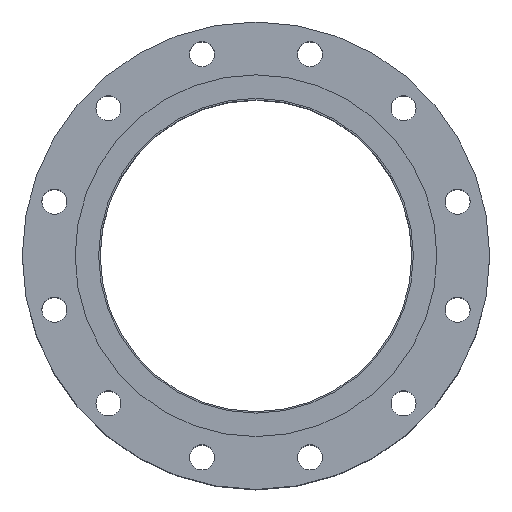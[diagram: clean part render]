
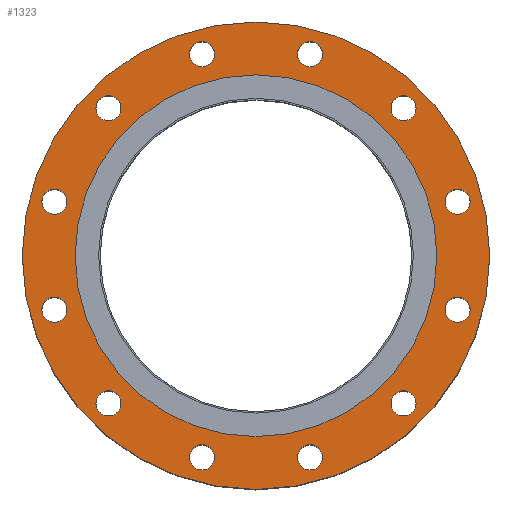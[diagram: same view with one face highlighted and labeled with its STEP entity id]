
A CAD part, top view. The second image highlights one B-rep face of the part: STEP entity #1323.
In plain terms, the highlighted planar face has unit normal (0, 0, 1).
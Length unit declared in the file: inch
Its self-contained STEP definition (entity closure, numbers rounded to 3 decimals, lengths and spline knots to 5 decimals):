
#88=FACE_BOUND('',#351,.T.);
#89=FACE_BOUND('',#352,.T.);
#90=FACE_BOUND('',#353,.T.);
#91=FACE_BOUND('',#354,.T.);
#92=FACE_BOUND('',#355,.T.);
#93=FACE_BOUND('',#356,.T.);
#94=FACE_BOUND('',#357,.T.);
#95=FACE_BOUND('',#358,.T.);
#96=FACE_BOUND('',#359,.T.);
#97=FACE_BOUND('',#360,.T.);
#98=FACE_BOUND('',#361,.T.);
#99=FACE_BOUND('',#362,.T.);
#100=FACE_BOUND('',#363,.T.);
#142=PLANE('',#1508);
#237=FACE_OUTER_BOUND('',#350,.T.);
#350=EDGE_LOOP('',(#1037));
#351=EDGE_LOOP('',(#1038));
#352=EDGE_LOOP('',(#1039));
#353=EDGE_LOOP('',(#1040));
#354=EDGE_LOOP('',(#1041));
#355=EDGE_LOOP('',(#1042));
#356=EDGE_LOOP('',(#1043));
#357=EDGE_LOOP('',(#1044));
#358=EDGE_LOOP('',(#1045));
#359=EDGE_LOOP('',(#1046));
#360=EDGE_LOOP('',(#1047));
#361=EDGE_LOOP('',(#1048));
#362=EDGE_LOOP('',(#1049));
#363=EDGE_LOOP('',(#1050));
#519=CIRCLE('',#1451,0.5625);
#521=CIRCLE('',#1454,0.5625);
#523=CIRCLE('',#1457,0.5625);
#525=CIRCLE('',#1460,0.5625);
#527=CIRCLE('',#1463,0.5625);
#529=CIRCLE('',#1466,0.5625);
#531=CIRCLE('',#1469,0.5625);
#533=CIRCLE('',#1472,0.5625);
#535=CIRCLE('',#1475,0.5625);
#537=CIRCLE('',#1478,0.5625);
#539=CIRCLE('',#1481,0.5625);
#541=CIRCLE('',#1484,0.5625);
#554=CIRCLE('',#1503,8.125);
#556=CIRCLE('',#1507,10.5);
#667=VERTEX_POINT('',#2266);
#669=VERTEX_POINT('',#2272);
#671=VERTEX_POINT('',#2278);
#673=VERTEX_POINT('',#2284);
#675=VERTEX_POINT('',#2290);
#677=VERTEX_POINT('',#2296);
#679=VERTEX_POINT('',#2302);
#681=VERTEX_POINT('',#2308);
#683=VERTEX_POINT('',#2314);
#685=VERTEX_POINT('',#2320);
#687=VERTEX_POINT('',#2326);
#689=VERTEX_POINT('',#2332);
#700=VERTEX_POINT('',#2364);
#702=VERTEX_POINT('',#2371);
#779=EDGE_CURVE('',#667,#667,#519,.T.);
#782=EDGE_CURVE('',#669,#669,#521,.T.);
#785=EDGE_CURVE('',#671,#671,#523,.T.);
#788=EDGE_CURVE('',#673,#673,#525,.T.);
#791=EDGE_CURVE('',#675,#675,#527,.T.);
#794=EDGE_CURVE('',#677,#677,#529,.T.);
#797=EDGE_CURVE('',#679,#679,#531,.T.);
#800=EDGE_CURVE('',#681,#681,#533,.T.);
#803=EDGE_CURVE('',#683,#683,#535,.T.);
#806=EDGE_CURVE('',#685,#685,#537,.T.);
#809=EDGE_CURVE('',#687,#687,#539,.T.);
#812=EDGE_CURVE('',#689,#689,#541,.T.);
#828=EDGE_CURVE('',#700,#700,#554,.T.);
#830=EDGE_CURVE('',#702,#702,#556,.T.);
#1037=ORIENTED_EDGE('',*,*,#830,.T.);
#1038=ORIENTED_EDGE('',*,*,#779,.T.);
#1039=ORIENTED_EDGE('',*,*,#782,.T.);
#1040=ORIENTED_EDGE('',*,*,#785,.T.);
#1041=ORIENTED_EDGE('',*,*,#788,.T.);
#1042=ORIENTED_EDGE('',*,*,#791,.T.);
#1043=ORIENTED_EDGE('',*,*,#794,.T.);
#1044=ORIENTED_EDGE('',*,*,#797,.T.);
#1045=ORIENTED_EDGE('',*,*,#800,.T.);
#1046=ORIENTED_EDGE('',*,*,#803,.T.);
#1047=ORIENTED_EDGE('',*,*,#806,.T.);
#1048=ORIENTED_EDGE('',*,*,#809,.T.);
#1049=ORIENTED_EDGE('',*,*,#812,.T.);
#1050=ORIENTED_EDGE('',*,*,#828,.T.);
#1323=ADVANCED_FACE('',(#237,#88,#89,#90,#91,#92,#93,#94,#95,#96,#97,#98,
#99,#100),#142,.T.);
#1451=AXIS2_PLACEMENT_3D('',#2267,#1719,#1720);
#1454=AXIS2_PLACEMENT_3D('',#2273,#1726,#1727);
#1457=AXIS2_PLACEMENT_3D('',#2279,#1733,#1734);
#1460=AXIS2_PLACEMENT_3D('',#2285,#1740,#1741);
#1463=AXIS2_PLACEMENT_3D('',#2291,#1747,#1748);
#1466=AXIS2_PLACEMENT_3D('',#2297,#1754,#1755);
#1469=AXIS2_PLACEMENT_3D('',#2303,#1761,#1762);
#1472=AXIS2_PLACEMENT_3D('',#2309,#1768,#1769);
#1475=AXIS2_PLACEMENT_3D('',#2315,#1775,#1776);
#1478=AXIS2_PLACEMENT_3D('',#2321,#1782,#1783);
#1481=AXIS2_PLACEMENT_3D('',#2327,#1789,#1790);
#1484=AXIS2_PLACEMENT_3D('',#2333,#1796,#1797);
#1503=AXIS2_PLACEMENT_3D('',#2366,#1837,#1838);
#1507=AXIS2_PLACEMENT_3D('',#2372,#1845,#1846);
#1508=AXIS2_PLACEMENT_3D('',#2374,#1848,#1849);
#1719=DIRECTION('center_axis',(0.,0.,-1.));
#1720=DIRECTION('ref_axis',(0.866,-0.5,0.));
#1726=DIRECTION('center_axis',(0.,0.,-1.));
#1727=DIRECTION('ref_axis',(0.5,-0.866,0.));
#1733=DIRECTION('center_axis',(0.,0.,-1.));
#1734=DIRECTION('ref_axis',(0.,-1.,0.));
#1740=DIRECTION('center_axis',(0.,0.,-1.));
#1741=DIRECTION('ref_axis',(-0.5,-0.866,0.));
#1747=DIRECTION('center_axis',(0.,0.,-1.));
#1748=DIRECTION('ref_axis',(-0.866,-0.5,0.));
#1754=DIRECTION('center_axis',(0.,0.,-1.));
#1755=DIRECTION('ref_axis',(-1.,0.,0.));
#1761=DIRECTION('center_axis',(0.,0.,-1.));
#1762=DIRECTION('ref_axis',(-0.866,0.5,0.));
#1768=DIRECTION('center_axis',(0.,0.,-1.));
#1769=DIRECTION('ref_axis',(-0.5,0.866,0.));
#1775=DIRECTION('center_axis',(0.,0.,-1.));
#1776=DIRECTION('ref_axis',(0.,1.,0.));
#1782=DIRECTION('center_axis',(0.,0.,-1.));
#1783=DIRECTION('ref_axis',(0.5,0.866,0.));
#1789=DIRECTION('center_axis',(0.,0.,-1.));
#1790=DIRECTION('ref_axis',(0.866,0.5,0.));
#1796=DIRECTION('center_axis',(0.,0.,-1.));
#1797=DIRECTION('ref_axis',(1.,0.,0.));
#1837=DIRECTION('center_axis',(0.,0.,-1.));
#1838=DIRECTION('ref_axis',(0.,1.,0.));
#1845=DIRECTION('center_axis',(0.,0.,1.));
#1846=DIRECTION('ref_axis',(1.,0.,0.));
#1848=DIRECTION('center_axis',(0.,0.,1.));
#1849=DIRECTION('ref_axis',(1.,0.,0.));
#2266=CARTESIAN_POINT('',(1.93929,9.3368,0.655));
#2267=CARTESIAN_POINT('Origin',(2.42643,9.05555,0.655));
#2272=CARTESIAN_POINT('',(6.34788,7.11627,0.655));
#2273=CARTESIAN_POINT('Origin',(6.62913,6.62913,0.655));
#2278=CARTESIAN_POINT('',(9.05555,2.98893,0.655));
#2279=CARTESIAN_POINT('Origin',(9.05555,2.42643,0.655));
#2284=CARTESIAN_POINT('',(9.3368,-1.93929,0.655));
#2285=CARTESIAN_POINT('Origin',(9.05555,-2.42643,0.655));
#2290=CARTESIAN_POINT('',(7.11627,-6.34788,0.655));
#2291=CARTESIAN_POINT('Origin',(6.62913,-6.62913,0.655));
#2296=CARTESIAN_POINT('',(2.98893,-9.05555,0.655));
#2297=CARTESIAN_POINT('Origin',(2.42643,-9.05555,0.655));
#2302=CARTESIAN_POINT('',(-1.93929,-9.3368,0.655));
#2303=CARTESIAN_POINT('Origin',(-2.42643,-9.05555,0.655));
#2308=CARTESIAN_POINT('',(-6.34788,-7.11627,0.655));
#2309=CARTESIAN_POINT('Origin',(-6.62913,-6.62913,0.655));
#2314=CARTESIAN_POINT('',(-9.05555,-2.98893,0.655));
#2315=CARTESIAN_POINT('Origin',(-9.05555,-2.42643,0.655));
#2320=CARTESIAN_POINT('',(-9.3368,1.93929,0.655));
#2321=CARTESIAN_POINT('Origin',(-9.05555,2.42643,0.655));
#2326=CARTESIAN_POINT('',(-7.11627,6.34788,0.655));
#2327=CARTESIAN_POINT('Origin',(-6.62913,6.62913,0.655));
#2332=CARTESIAN_POINT('',(-2.98893,9.05555,0.655));
#2333=CARTESIAN_POINT('Origin',(-2.42643,9.05555,0.655));
#2364=CARTESIAN_POINT('',(0.,-8.125,0.655));
#2366=CARTESIAN_POINT('Origin',(0.,0.,0.655));
#2371=CARTESIAN_POINT('',(0.,-10.5,0.655));
#2372=CARTESIAN_POINT('Origin',(0.,0.,0.655));
#2374=CARTESIAN_POINT('Origin',(0.,7.07,0.655));
